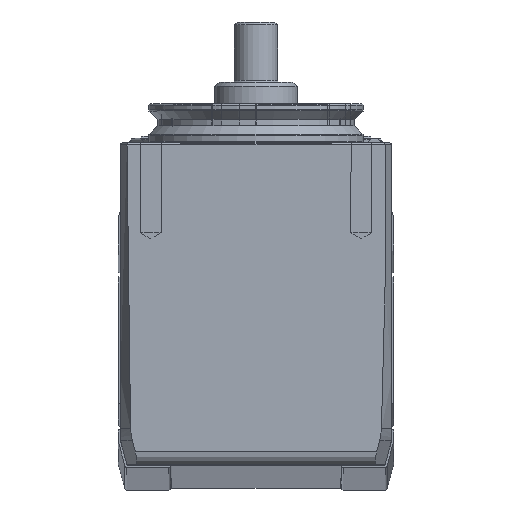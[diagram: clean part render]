
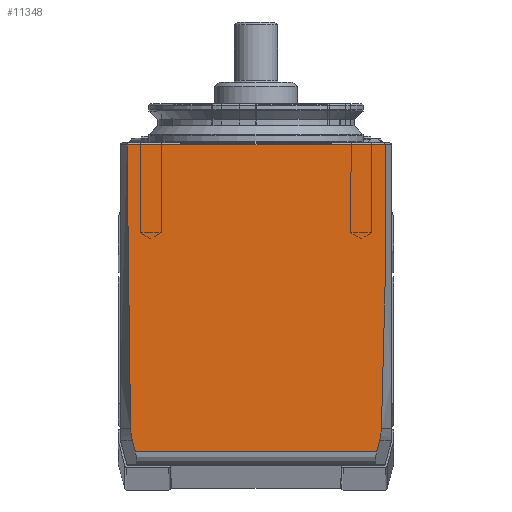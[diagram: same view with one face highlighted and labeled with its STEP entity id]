
A CAD part, top view. The second image highlights one B-rep face of the part: STEP entity #11348.
In plain terms, the highlighted planar face has unit normal (0, 0, 1) as drawn and (0, 1, 0) by its records, which use the part's own axes.
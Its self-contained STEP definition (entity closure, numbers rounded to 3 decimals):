
#116=B_SPLINE_CURVE_WITH_KNOTS('',3,(#23711,#23712,#23713,#23714),
 .UNSPECIFIED.,.F.,.F.,(4,4),(0.,0.001),.UNSPECIFIED.);
#117=B_SPLINE_CURVE_WITH_KNOTS('',3,(#23716,#23717,#23718,#23719,#23720,
#23721,#23722,#23723,#23724,#23725,#23726),.UNSPECIFIED.,.F.,.F.,(4,1,1,
1,1,1,1,1,4),(0.,0.004,0.006,0.007,
0.008,0.012,0.016,0.025,
0.033),.UNSPECIFIED.);
#118=B_SPLINE_CURVE_WITH_KNOTS('',3,(#23727,#23728,#23729,#23730,#23731,
#23732,#23733,#23734,#23735,#23736,#23737),.UNSPECIFIED.,.F.,.F.,(4,1,1,
1,1,1,1,1,4),(0.,0.008,0.017,0.021,
0.025,0.026,0.027,0.029,
0.033),.UNSPECIFIED.);
#119=B_SPLINE_CURVE_WITH_KNOTS('',3,(#23739,#23740,#23741,#23742),
 .UNSPECIFIED.,.F.,.F.,(4,4),(0.,0.001),.UNSPECIFIED.);
#3520=ORIENTED_EDGE('',*,*,#5500,.T.);
#3521=ORIENTED_EDGE('',*,*,#5501,.T.);
#3522=ORIENTED_EDGE('',*,*,#5502,.T.);
#3523=ORIENTED_EDGE('',*,*,#5503,.T.);
#3524=ORIENTED_EDGE('',*,*,#5489,.F.);
#3525=ORIENTED_EDGE('',*,*,#5504,.T.);
#3526=ORIENTED_EDGE('',*,*,#5505,.T.);
#3527=ORIENTED_EDGE('',*,*,#5506,.T.);
#5489=EDGE_CURVE('',#6715,#6716,#7666,.T.);
#5500=EDGE_CURVE('',#6725,#6726,#7673,.T.);
#5501=EDGE_CURVE('',#6726,#6727,#7674,.T.);
#5502=EDGE_CURVE('',#6727,#6728,#116,.T.);
#5503=EDGE_CURVE('',#6728,#6716,#117,.T.);
#5504=EDGE_CURVE('',#6715,#6729,#118,.T.);
#5505=EDGE_CURVE('',#6729,#6730,#119,.T.);
#5506=EDGE_CURVE('',#6730,#6725,#7675,.T.);
#6715=VERTEX_POINT('',#23684);
#6716=VERTEX_POINT('',#23685);
#6725=VERTEX_POINT('',#23707);
#6726=VERTEX_POINT('',#23708);
#6727=VERTEX_POINT('',#23710);
#6728=VERTEX_POINT('',#23715);
#6729=VERTEX_POINT('',#23738);
#6730=VERTEX_POINT('',#23743);
#7666=LINE('',#23683,#8617);
#7673=LINE('',#23706,#8624);
#7674=LINE('',#23709,#8625);
#7675=LINE('',#23744,#8626);
#8617=VECTOR('',#19497,1000.);
#8624=VECTOR('',#19516,1000.);
#8625=VECTOR('',#19517,1000.);
#8626=VECTOR('',#19518,1000.);
#9445=EDGE_LOOP('',(#3520,#3521,#3522,#3523,#3524,#3525,#3526,#3527));
#10312=FACE_BOUND('',#9445,.T.);
#10776=PLANE('',#16604);
#11348=ADVANCED_FACE('',(#10312),#10776,.F.);
#16604=AXIS2_PLACEMENT_3D('',#23705,#19514,#19515);
#19497=DIRECTION('',(0.,0.,-1.));
#19514=DIRECTION('',(0.,-1.,0.));
#19515=DIRECTION('',(0.,0.,-1.));
#19516=DIRECTION('',(0.,0.,-1.));
#19517=DIRECTION('',(-0.966,0.,-0.259));
#19518=DIRECTION('',(0.966,0.,-0.259));
#23683=CARTESIAN_POINT('',(0.3,15.75,15.75));
#23684=CARTESIAN_POINT('',(0.3,15.75,15.));
#23685=CARTESIAN_POINT('',(0.3,15.75,-15.));
#23705=CARTESIAN_POINT('',(37.5,15.75,-15.));
#23706=CARTESIAN_POINT('',(36.,15.75,15.75));
#23707=CARTESIAN_POINT('',(36.,15.75,14.026));
#23708=CARTESIAN_POINT('',(36.,15.75,-14.026));
#23709=CARTESIAN_POINT('',(37.156,15.75,-13.716));
#23710=CARTESIAN_POINT('',(34.701,15.75,-14.374));
#23711=CARTESIAN_POINT('',(34.702,15.75,-14.375));
#23712=CARTESIAN_POINT('',(34.249,15.75,-14.494));
#23713=CARTESIAN_POINT('',(33.783,15.75,-14.551));
#23714=CARTESIAN_POINT('',(33.316,15.75,-14.582));
#23715=CARTESIAN_POINT('',(33.316,15.75,-14.582));
#23716=CARTESIAN_POINT('',(33.316,15.75,-14.582));
#23717=CARTESIAN_POINT('',(31.945,15.75,-14.681));
#23718=CARTESIAN_POINT('',(29.887,15.75,-14.818));
#23719=CARTESIAN_POINT('',(27.487,15.75,-15.015));
#23720=CARTESIAN_POINT('',(26.11,15.75,-14.997));
#23721=CARTESIAN_POINT('',(24.045,15.75,-15.003));
#23722=CARTESIAN_POINT('',(20.948,15.75,-14.998));
#23723=CARTESIAN_POINT('',(15.442,15.75,-15.001));
#23724=CARTESIAN_POINT('',(8.559,15.75,-14.999));
#23725=CARTESIAN_POINT('',(3.053,15.75,-15.));
#23726=CARTESIAN_POINT('',(0.3,15.75,-15.));
#23727=CARTESIAN_POINT('',(0.3,15.75,15.));
#23728=CARTESIAN_POINT('',(3.053,15.75,15.));
#23729=CARTESIAN_POINT('',(8.559,15.75,14.999));
#23730=CARTESIAN_POINT('',(15.442,15.75,15.001));
#23731=CARTESIAN_POINT('',(20.948,15.75,14.998));
#23732=CARTESIAN_POINT('',(24.046,15.75,15.003));
#23733=CARTESIAN_POINT('',(26.11,15.75,14.997));
#23734=CARTESIAN_POINT('',(27.488,15.75,15.015));
#23735=CARTESIAN_POINT('',(29.887,15.75,14.817));
#23736=CARTESIAN_POINT('',(31.945,15.75,14.681));
#23737=CARTESIAN_POINT('',(33.316,15.75,14.582));
#23738=CARTESIAN_POINT('',(33.316,15.75,14.582));
#23739=CARTESIAN_POINT('',(33.316,15.75,14.582));
#23740=CARTESIAN_POINT('',(33.783,15.75,14.551));
#23741=CARTESIAN_POINT('',(34.249,15.75,14.494));
#23742=CARTESIAN_POINT('',(34.702,15.75,14.375));
#23743=CARTESIAN_POINT('',(34.701,15.75,14.374));
#23744=CARTESIAN_POINT('',(44.651,15.75,11.709));
